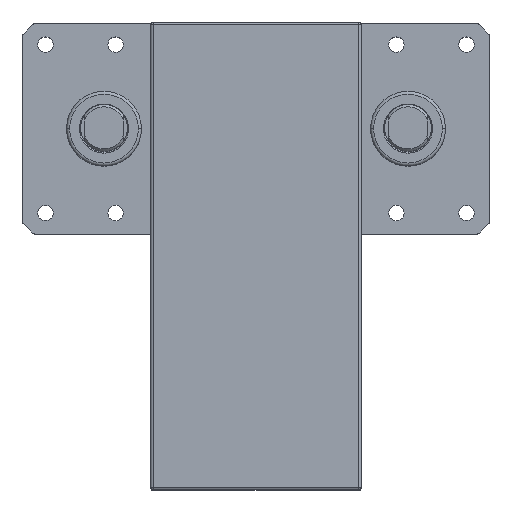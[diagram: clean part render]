
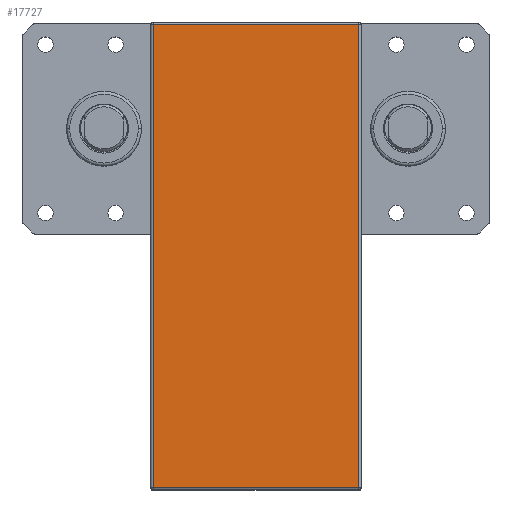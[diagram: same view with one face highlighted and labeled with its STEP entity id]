
A CAD part, top view. The second image highlights one B-rep face of the part: STEP entity #17727.
In plain terms, the highlighted planar face has unit normal (0, 0, 1).
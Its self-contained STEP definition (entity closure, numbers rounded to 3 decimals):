
#448 = EDGE_LOOP ( 'NONE', ( #10199, #31442, #40755, #1309 ) ) ;
#1309 = ORIENTED_EDGE ( 'NONE', *, *, #14215, .T. ) ;
#4448 = CARTESIAN_POINT ( 'NONE',  ( -44., -154., 363. ) ) ;
#4500 = AXIS2_PLACEMENT_3D ( 'NONE', #25207, #21606, #47595 ) ;
#5132 = CARTESIAN_POINT ( 'NONE',  ( -44., -154., 363. ) ) ;
#6195 = CARTESIAN_POINT ( 'NONE',  ( -44., 44., 363. ) ) ;
#7037 = DIRECTION ( 'NONE',  ( 1., 0., 0. ) ) ;
#7792 = VECTOR ( 'NONE', #34390, 1000. ) ;
#9238 = FACE_OUTER_BOUND ( 'NONE', #448, .T. ) ;
#10199 = ORIENTED_EDGE ( 'NONE', *, *, #20456, .T. ) ;
#14215 = EDGE_CURVE ( 'NONE', #15890, #22388, #19054, .T. ) ;
#15890 = VERTEX_POINT ( 'NONE', #16198 ) ;
#16198 = CARTESIAN_POINT ( 'NONE',  ( 44., 44., 363. ) ) ;
#17544 = CARTESIAN_POINT ( 'NONE',  ( 44., 44., 363. ) ) ;
#17727 = ADVANCED_FACE ( 'NONE', ( #9238 ), #43843, .T. ) ;
#18092 = CARTESIAN_POINT ( 'NONE',  ( 44., -154., 363. ) ) ;
#19054 = LINE ( 'NONE', #6195, #28973 ) ;
#20456 = EDGE_CURVE ( 'NONE', #22388, #37107, #37456, .T. ) ;
#21606 = DIRECTION ( 'NONE',  ( 0., 0., 1. ) ) ;
#22388 = VERTEX_POINT ( 'NONE', #32258 ) ;
#23753 = EDGE_CURVE ( 'NONE', #42358, #15890, #33785, .T. ) ;
#23913 = VECTOR ( 'NONE', #39790, 1000. ) ;
#25207 = CARTESIAN_POINT ( 'NONE',  ( -44., -154., 363. ) ) ;
#28973 = VECTOR ( 'NONE', #35947, 1000. ) ;
#31442 = ORIENTED_EDGE ( 'NONE', *, *, #38899, .T. ) ;
#32258 = CARTESIAN_POINT ( 'NONE',  ( -44., 44., 363. ) ) ;
#32902 = CARTESIAN_POINT ( 'NONE',  ( 44., -154., 363. ) ) ;
#33785 = LINE ( 'NONE', #17544, #23913 ) ;
#34390 = DIRECTION ( 'NONE',  ( 0., -1., 0. ) ) ;
#35947 = DIRECTION ( 'NONE',  ( -1., 0., 0. ) ) ;
#36533 = VECTOR ( 'NONE', #7037, 1000. ) ;
#37107 = VERTEX_POINT ( 'NONE', #5132 ) ;
#37456 = LINE ( 'NONE', #4448, #7792 ) ;
#38865 = LINE ( 'NONE', #18092, #36533 ) ;
#38899 = EDGE_CURVE ( 'NONE', #37107, #42358, #38865, .T. ) ;
#39790 = DIRECTION ( 'NONE',  ( 0., 1., 0. ) ) ;
#40755 = ORIENTED_EDGE ( 'NONE', *, *, #23753, .T. ) ;
#42358 = VERTEX_POINT ( 'NONE', #32902 ) ;
#43843 = PLANE ( 'NONE',  #4500 ) ;
#47595 = DIRECTION ( 'NONE',  ( 1., 0., 0. ) ) ;
